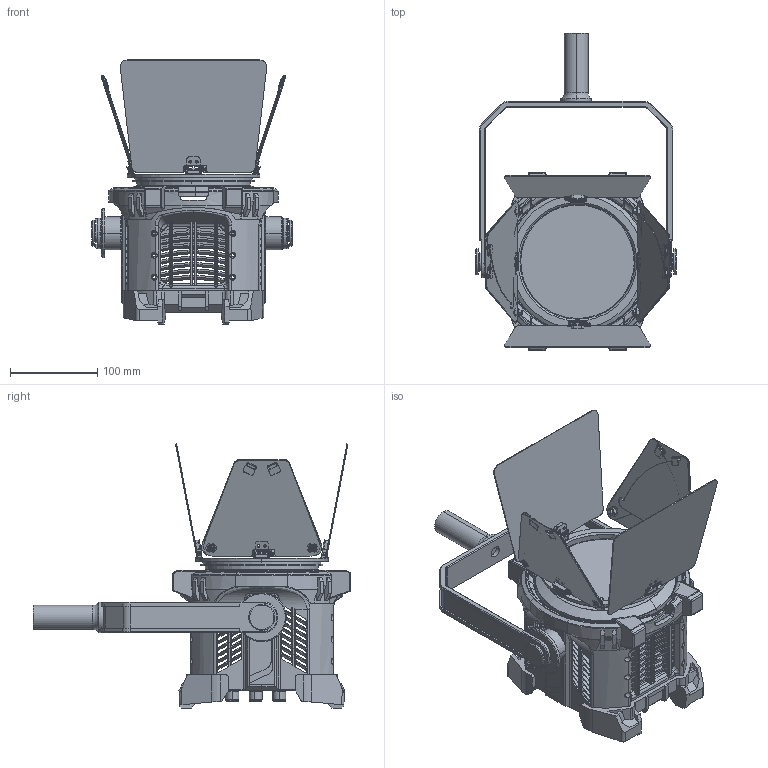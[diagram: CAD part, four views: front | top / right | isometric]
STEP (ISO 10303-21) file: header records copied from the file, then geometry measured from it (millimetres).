
FILE_DESCRIPTION (( 'STEP AP214' ), '1' );
FILE_NAME ('5010152-xxx_A1_Fiilex Q5 Series Top Assembly.STEP', '2020-08-20T05:31:56', ( '' ), ( '' ), 'SwSTEP 2.0', 'SolidWorks 2014', '' );
FILE_SCHEMA (( 'AUTOMOTIVE_DESIGN' ));
Length unit declared in the file: millimetre
Products named in the file (44): 5021215-XXX_A5_Blade 2 of Barn Door, W168 H131, Al 5052, Black; 5020921 SPACER, PITCH 7.4, LIGHT SHIELDING, BARN DOOR, P360; BRACKET-B-001; BRACKET-B-002; 5021979_A2_Yoke Righ Brake Base OD56 AL6061; 5060064_A1_Fresnel Lens 10 Layer OD130 FL100 PMMA; 5021970_A5_U-Bracket IW208 T7 AL6063 Black; 3D Simplify_A1_5inch 8 Leaf BarnDoor Assembly; 5021974_A2_Left Nameplate L97.6 W28.2 T0.5 with Q5 PC; 5020734 SPACER,HINGE,BARN DOOR; 62280-5565010 SCREW M5 L10 ULTRA THIN HEAD TROX Nylok Black; 5021867_A1_U-YOKE FIXING SCREW, SUS, OD30, L22; 5020655-001-A1X2; 5022040_A4_Back Panel Plate H149.4 W146.4 T2 AL5052; RIVET_1; 5020655-002 HINGE, BARN DOOR, TORQUE 1KGF, HEIGHT 4.8MM.; 45-WASHER_1; 5021978_A2_Yoke Left Base OD38 AL6061; 45_NUT-WASHER_1; 5120407_A1_Q5 Fresnel Lens with Rubber Ring Assembly; SHAFT_1; 5021973_A2_Right Nameplate L97.6 W28.2 T0.5 PC; 5021201_A3_C-Stand OD27.4 ID17 L65 SUS ; 5120397_A1_Q5 Housing With Nameplate Assembly; 5022041_A4_Back Rubber Cover W161.2 EPDM Black; 5010152-xxx_A1_Fiilex Q5 Series Top Assembly; 5020893-3205212015 Washer, OD12.0 ID5.2 T1.5, Nylon; 5120405_A1_Q5 Housing All Parts Assembly; 5021981_A2_Front Rubber Cover OD194 EPDM Black; 5022328-XXX_A2_Blade 1 Barndoor L116 T0.8 for 8 leaf AL5052; SPRING WASHER; 5120401_A1_Q5 Zoomable Lens for 5inch Assembly; 5020648-001-brk-r; 5022252_A1_Knob OD14.9 H12 IH7.9 Black with Red dot; 5inch Leaf 01 with sub leaf Assembly 5inch; 5021964_Sub Parts_Housing Half OD186 T2.6 ABS PC_for A2; 5022329-XXX_A2_5inch Sub Blade T0.8 for 8 leaf AL5052; 5021964_A2_Housing Half with Insert Nut OD186 T2.6 ABS PC; 5020919 SPACER, PITCH 6.0, LIGHT SHIELDING, BARN DOOR, P360; 62430-10450 NUT, M5, HEX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
Assembly tree (62 placements, depth 5):
  5010152-xxx_A1_Fiilex Q5 Series Top Assembly
    5120405_A1_Q5 Housing All Parts Assembly
      5120397_A1_Q5 Housing With Nameplate Assembly
        5021964_A2_Housing Half with Insert Nut OD186 T2.6 ABS PC  x2
          5021964_Sub Parts_Housing Half OD186 T2.6 ABS PC_for A2
        5021974_A2_Left Nameplate L97.6 W28.2 T0.5 with Q5 PC
        5021973_A2_Right Nameplate L97.6 W28.2 T0.5 PC
      5021978_A2_Yoke Left Base OD38 AL6061
      5021979_A2_Yoke Righ Brake Base OD56 AL6061
      5021867_A1_U-YOKE FIXING SCREW, SUS, OD30, L22  x2
      5120401_A1_Q5 Zoomable Lens for 5inch Assembly
        5021988_A2_Zoom Lens 5inch Moving Front OD161 AL6061
        5120407_A1_Q5 Fresnel Lens with Rubber Ring Assembly
          5060064_A1_Fresnel Lens 10 Layer OD130 FL100 PMMA
      5021970_A5_U-Bracket IW208 T7 AL6063 Black
      5021201_A3_C-Stand OD27.4 ID17 L65 SUS 
      5021981_A2_Front Rubber Cover OD194 EPDM Black
    5022040_A4_Back Panel Plate H149.4 W146.4 T2 AL5052
    5022041_A4_Back Rubber Cover W161.2 EPDM Black  x2
    5022252_A1_Knob OD14.9 H12 IH7.9 Black with Red dot
    5022253_A1_Knob OD14.9 H12 IH6.9 Black no dot  x2
    3D Simplify_A1_5inch 8 Leaf BarnDoor Assembly
      5021214_A2_Barn Door Holder 5-in, Al, Black, Q500
      5020655-001-A1X2  x2
        BRACKET-B-001
        SHAFT_1
        SPRING WASHER
        45-WASHER_1
        45_NUT-WASHER_1
        RIVET_1
        5020648-001-brk-r
        5020919 SPACER, PITCH 6.0, LIGHT SHIELDING, BARN DOOR, P360
      5inch Leaf 01 with sub leaf Assembly 5inch  x2
        5022328-XXX_A2_Blade 1 Barndoor L116 T0.8 for 8 leaf AL5052
        5022329-XXX_A2_5inch Sub Blade T0.8 for 8 leaf AL5052
        62280-5565010 SCREW M5 L10 ULTRA THIN HEAD TROX Nylok Black
        62430-10450 NUT, M5, HEX
        5020893-3205212003 Washer, OD12.0 ID5.2 T0.3, Nylon
        5020893-3205212015 Washer, OD12.0 ID5.2 T1.5, Nylon
      5020655-002 HINGE, BARN DOOR, TORQUE 1KGF, HEIGHT 4.8MM.  x2
        BRACKET-B-002
        SHAFT_1
        SPRING WASHER
        45-WASHER_1
        45_NUT-WASHER_1
        RIVET_1
        5020648-001-brk-r
        5020921 SPACER, PITCH 7.4, LIGHT SHIELDING, BARN DOOR, P360
        5020734 SPACER,HINGE,BARN DOOR
      5021215-XXX_A5_Blade 2 of Barn Door, W168 H131, Al 5052, Black  x2
Bounding box: 229.6 x 364 x 302.81 mm (x, y, z)
Volume: 1011819.8 mm3; surface area: 737182.9 mm2
Topology: 86 solids, 86 shells, 4845 faces, 13549 edges, 8829 vertices
Faces by surface type: plane 2240, cylinder 1663, bspline 449, cone 292, torus 189, sphere 12
Entity records: 102539 total; most frequent: CARTESIAN_POINT 32901, ORIENTED_EDGE 15102, DIRECTION 12491, EDGE_CURVE 7551, VERTEX_POINT 4907, AXIS2_PLACEMENT_3D 4206, LINE 4079, VECTOR 4079
